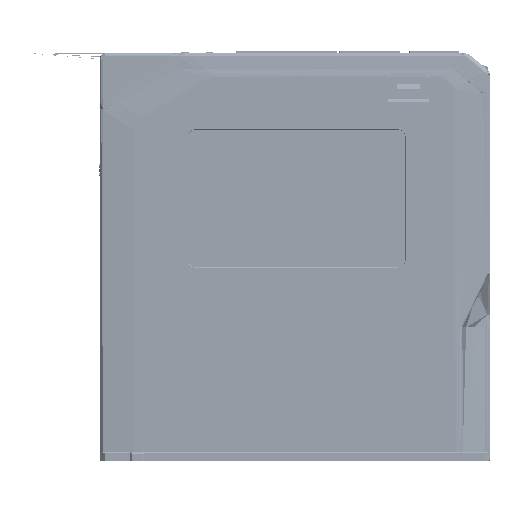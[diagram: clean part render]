
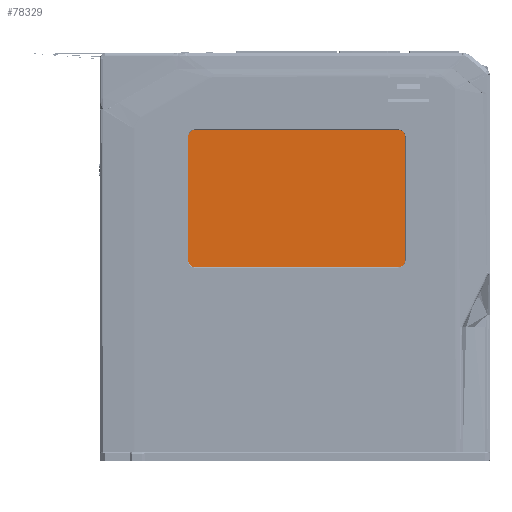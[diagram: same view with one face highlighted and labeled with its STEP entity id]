
A CAD part, left-side view. The second image highlights one B-rep face of the part: STEP entity #78329.
In plain terms, the highlighted planar face has unit normal (-1, 0, 0).
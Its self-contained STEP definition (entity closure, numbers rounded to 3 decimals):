
#33085 = CARTESIAN_POINT ( 'NONE',  ( -18.254, -168.822, -36.85 ) ) ;
#70599 = VERTEX_POINT ( 'NONE', #761198 ) ;
#73624 = CARTESIAN_POINT ( 'NONE',  ( -18.254, -165.822, -94.45 ) ) ;
#78329 = ADVANCED_FACE ( 'NONE', ( #774784 ), #378127, .T. ) ;
#81246 = ORIENTED_EDGE ( 'NONE', *, *, #449965, .T. ) ;
#85599 = DIRECTION ( 'NONE',  ( -1., 0., 0. ) ) ;
#103227 = VERTEX_POINT ( 'NONE', #429486 ) ;
#114343 = VERTEX_POINT ( 'NONE', #763521 ) ;
#114633 = LINE ( 'NONE', #308454, #573651 ) ;
#116197 = VERTEX_POINT ( 'NONE', #187118 ) ;
#120372 = ORIENTED_EDGE ( 'NONE', *, *, #182834, .T. ) ;
#154320 = CIRCLE ( 'NONE', #703188, 3. ) ;
#169553 = LINE ( 'NONE', #33085, #640165 ) ;
#175641 = DIRECTION ( 'NONE',  ( 0., -1., 0. ) ) ;
#182834 = EDGE_CURVE ( 'NONE', #479736, #322949, #377860, .T. ) ;
#187118 = CARTESIAN_POINT ( 'NONE',  ( -18.254, -168.822, -91.45 ) ) ;
#195478 = CARTESIAN_POINT ( 'NONE',  ( -18.254, -76.222, -33.85 ) ) ;
#212851 = EDGE_CURVE ( 'NONE', #70599, #234640, #418536, .T. ) ;
#227016 = DIRECTION ( 'NONE',  ( 0., 0., 1. ) ) ;
#234640 = VERTEX_POINT ( 'NONE', #73624 ) ;
#242264 = ORIENTED_EDGE ( 'NONE', *, *, #566244, .T. ) ;
#249689 = CARTESIAN_POINT ( 'NONE',  ( -18.254, -76.222, -33.85 ) ) ;
#253994 = VECTOR ( 'NONE', #399136, 1000. ) ;
#261777 = VERTEX_POINT ( 'NONE', #195478 ) ;
#265923 = CARTESIAN_POINT ( 'NONE',  ( -18.254, -165.822, -91.45 ) ) ;
#304801 = CARTESIAN_POINT ( 'NONE',  ( -18.254, -165.822, -36.85 ) ) ;
#307027 = AXIS2_PLACEMENT_3D ( 'NONE', #565450, #85599, #706376 ) ;
#308454 = CARTESIAN_POINT ( 'NONE',  ( -18.254, -73.222, -36.85 ) ) ;
#322949 = VERTEX_POINT ( 'NONE', #574697 ) ;
#360772 = CARTESIAN_POINT ( 'NONE',  ( -18.254, -76.222, -91.45 ) ) ;
#373079 = DIRECTION ( 'NONE',  ( -1., 0., 0. ) ) ;
#377860 = CIRCLE ( 'NONE', #729442, 3. ) ;
#378127 = PLANE ( 'NONE',  #777524 ) ;
#378321 = VECTOR ( 'NONE', #670926, 1000. ) ;
#399136 = DIRECTION ( 'NONE',  ( 0., 1., 0. ) ) ;
#402391 = DIRECTION ( 'NONE',  ( 0., 0., 1. ) ) ;
#418536 = LINE ( 'NONE', #625480, #378321 ) ;
#429486 = CARTESIAN_POINT ( 'NONE',  ( -18.254, -73.222, -36.85 ) ) ;
#433419 = CIRCLE ( 'NONE', #307027, 3. ) ;
#449965 = EDGE_CURVE ( 'NONE', #261777, #103227, #154320, .T. ) ;
#455106 = CARTESIAN_POINT ( 'NONE',  ( -18.254, -76.222, -36.85 ) ) ;
#466196 = DIRECTION ( 'NONE',  ( 0., -1., 0. ) ) ;
#479736 = VERTEX_POINT ( 'NONE', #808479 ) ;
#518245 = LINE ( 'NONE', #249689, #253994 ) ;
#553281 = EDGE_CURVE ( 'NONE', #114343, #70599, #433419, .T. ) ;
#565450 = CARTESIAN_POINT ( 'NONE',  ( -18.254, -76.222, -91.45 ) ) ;
#566244 = EDGE_CURVE ( 'NONE', #116197, #479736, #169553, .T. ) ;
#569096 = EDGE_CURVE ( 'NONE', #103227, #114343, #114633, .T. ) ;
#573651 = VECTOR ( 'NONE', #784202, 1000. ) ;
#574697 = CARTESIAN_POINT ( 'NONE',  ( -18.254, -165.822, -33.85 ) ) ;
#580715 = AXIS2_PLACEMENT_3D ( 'NONE', #265923, #373079, #402391 ) ;
#625480 = CARTESIAN_POINT ( 'NONE',  ( -18.254, -76.222, -94.45 ) ) ;
#630788 = EDGE_CURVE ( 'NONE', #322949, #261777, #518245, .T. ) ;
#637841 = EDGE_CURVE ( 'NONE', #234640, #116197, #707245, .T. ) ;
#640165 = VECTOR ( 'NONE', #227016, 1000. ) ;
#670926 = DIRECTION ( 'NONE',  ( 0., -1., 0. ) ) ;
#688751 = ORIENTED_EDGE ( 'NONE', *, *, #553281, .T. ) ;
#703188 = AXIS2_PLACEMENT_3D ( 'NONE', #455106, #798648, #723891 ) ;
#706376 = DIRECTION ( 'NONE',  ( 0., 0., 1. ) ) ;
#707245 = CIRCLE ( 'NONE', #580715, 3. ) ;
#714377 = DIRECTION ( 'NONE',  ( -1., 0., 0. ) ) ;
#715562 = ORIENTED_EDGE ( 'NONE', *, *, #212851, .T. ) ;
#723891 = DIRECTION ( 'NONE',  ( 0., 0., 1. ) ) ;
#729442 = AXIS2_PLACEMENT_3D ( 'NONE', #304801, #714377, #466196 ) ;
#738120 = ORIENTED_EDGE ( 'NONE', *, *, #637841, .T. ) ;
#759474 = EDGE_LOOP ( 'NONE', ( #81246, #822005, #688751, #715562, #738120, #242264, #120372, #834290 ) ) ;
#761198 = CARTESIAN_POINT ( 'NONE',  ( -18.254, -76.222, -94.45 ) ) ;
#763521 = CARTESIAN_POINT ( 'NONE',  ( -18.254, -73.222, -91.45 ) ) ;
#774784 = FACE_OUTER_BOUND ( 'NONE', #759474, .T. ) ;
#777524 = AXIS2_PLACEMENT_3D ( 'NONE', #360772, #832190, #175641 ) ;
#784202 = DIRECTION ( 'NONE',  ( 0., 0., -1. ) ) ;
#798648 = DIRECTION ( 'NONE',  ( -1., 0., 0. ) ) ;
#808479 = CARTESIAN_POINT ( 'NONE',  ( -18.254, -168.822, -36.85 ) ) ;
#822005 = ORIENTED_EDGE ( 'NONE', *, *, #569096, .T. ) ;
#832190 = DIRECTION ( 'NONE',  ( -1., 0., 0. ) ) ;
#834290 = ORIENTED_EDGE ( 'NONE', *, *, #630788, .T. ) ;
